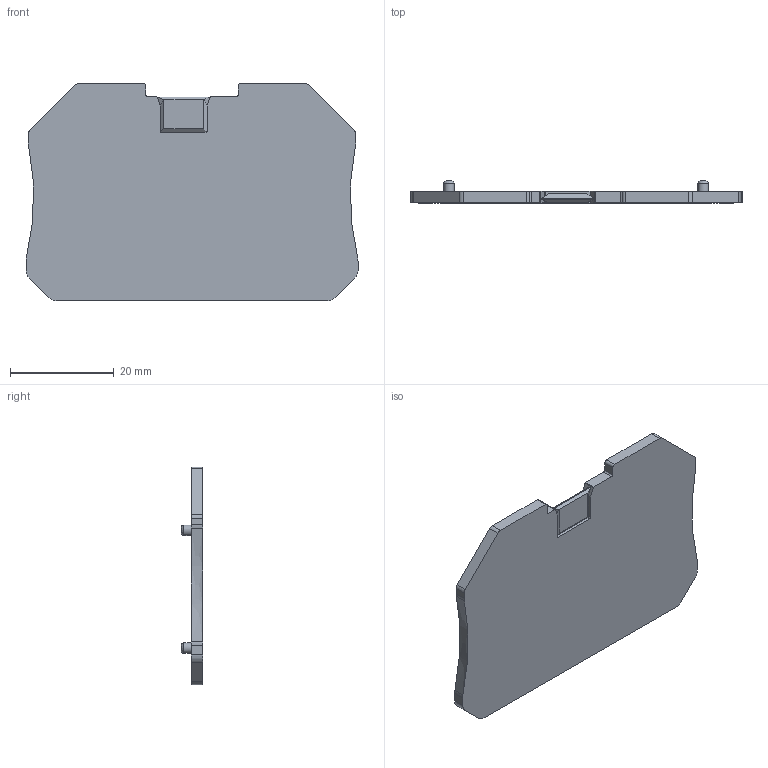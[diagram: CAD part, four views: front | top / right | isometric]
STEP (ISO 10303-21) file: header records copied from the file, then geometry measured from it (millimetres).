
FILE_DESCRIPTION( ('This file contains a STEP AP42 implementation' ,'as created by ZW3D STEP Interface translator.') ,'2;1' );
FILE_NAME( 'D-RUT4-QUATTRO-HV.stp' ,'23 729.142057', (''), ('ZWCAD Software Co.'), 'Version 1.0', 'ZW3D to STEP translator', '' );
FILE_SCHEMA(('AUTOMOTIVE_DESIGN { 1 0 10303 214 1 1 1 1 }'));
Length unit declared in the file: millimetre
Products named in the file (2): 0; RUT4-QUATTRO-HV_錨璃45
Bounding box: 64 x 4.2 x 42 mm (x, y, z)
Volume: 5404.4 mm3; surface area: 5457.8 mm2
Topology: 1 solids, 1 shells, 76 faces, 242 edges, 214 vertices
Faces by surface type: plane 44, cylinder 26, bspline 6
Full cylindrical faces by diameter (mm): 2 x4
Entity records: 5648 total; most frequent: CARTESIAN_POINT 3449, DIRECTION 428, ORIENTED_EDGE 400, EDGE_CURVE 200, VECTOR 146, LINE 146, AXIS2_PLACEMENT_3D 141, VERTEX_POINT 130
